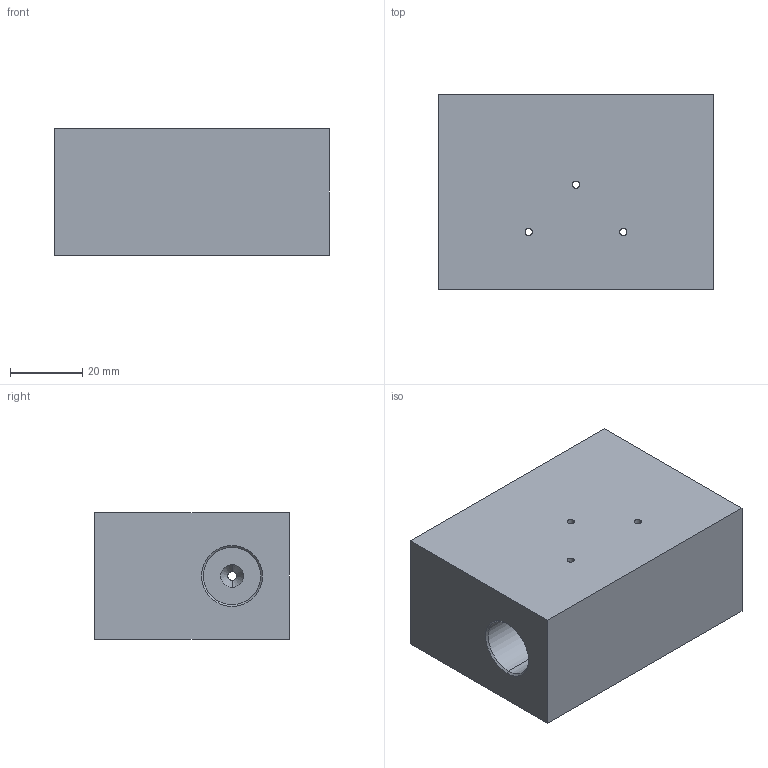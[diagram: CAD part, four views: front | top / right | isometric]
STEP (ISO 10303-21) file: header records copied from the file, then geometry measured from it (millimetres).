
FILE_DESCRIPTION (( 'STEP AP203' ), '1' );
FILE_NAME ('FT100TS06.STEP', '2026-06-26T01:34:03', ( 'USER' ), ( '' ), 'SwSTEP 2.0', 'SolidWorks 2023', '' );
FILE_SCHEMA (( 'CONFIG_CONTROL_DESIGN' ));
Length unit declared in the file: millimetre
Products named in the file (1): FT100TS06
Bounding box: 76.2 x 54 x 35 mm (x, y, z)
Volume: 127507.8 mm3; surface area: 21896.1 mm2
Topology: 1 solids, 1 shells, 44 faces, 114 edges, 68 vertices
Faces by surface type: cylinder 23, cone 12, plane 9
Entity records: 1601 total; most frequent: CARTESIAN_POINT 429, DIRECTION 228, ORIENTED_EDGE 228, EDGE_CURVE 114, AXIS2_PLACEMENT_3D 87, VERTEX_POINT 68, EDGE_LOOP 56, VECTOR 54
